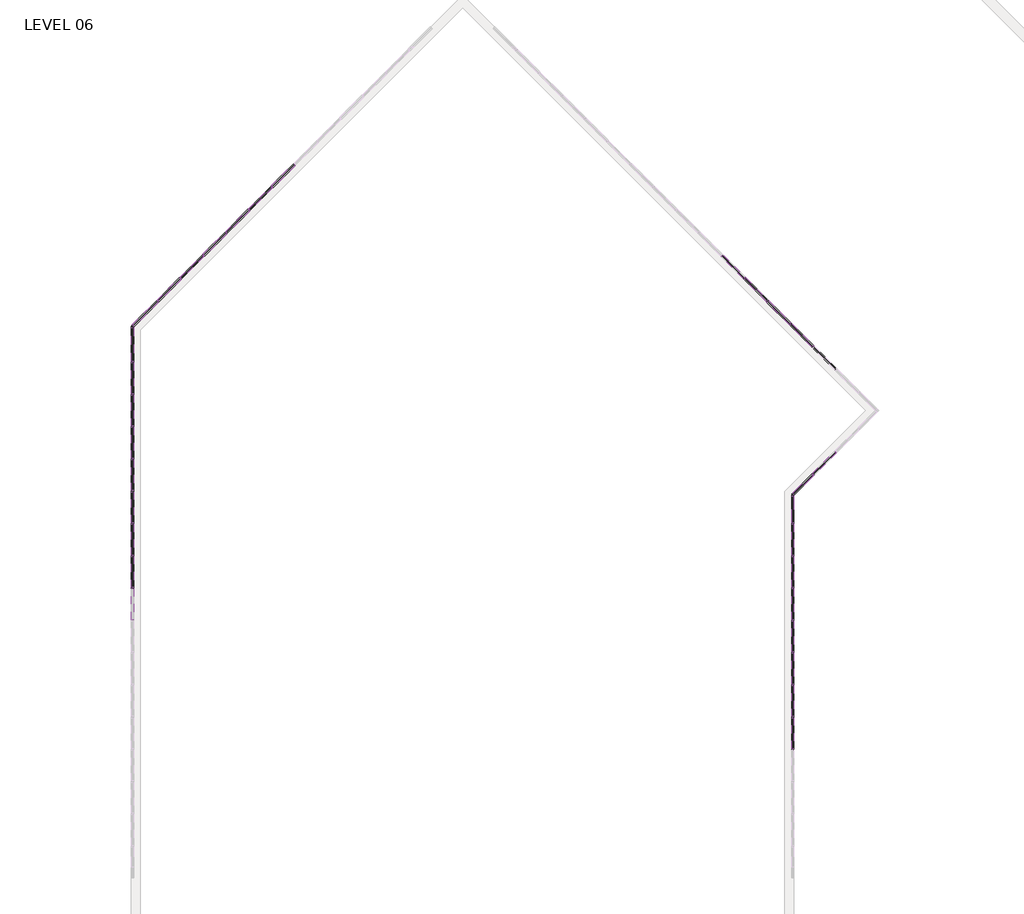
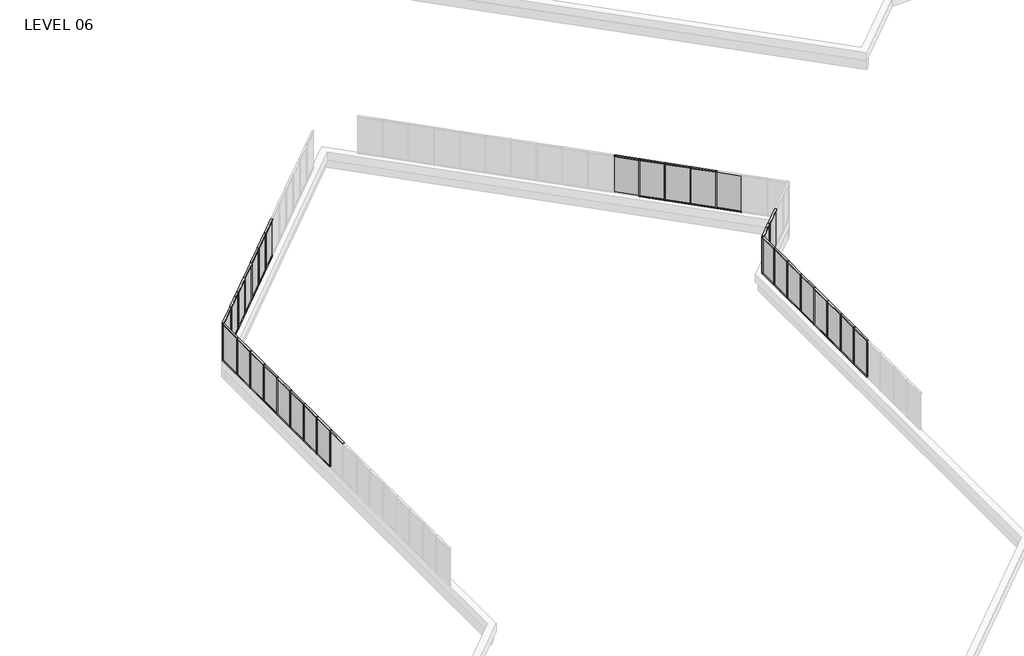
# One storey, part 5 of 17: 89 members, 30 plates.
"""IFC4 building model written with IfcOpenShell, lengths in millimetres."""

from ifc_helpers import new_model, si_unit, origin, place, context, project, spatial, transform, mapped, element, save
from components import member_5247f267, member_e44af9ab, member_800970d4, member_45eb7f2e, member_1bd862b2, member_c975838b, plate_67294edd, plate_bbcbcabf, plate_9c66726c, plate_3fb62afd, plate_129ab9d0

model = new_model("IFC4")

# Units and contexts
model_context = context("Model", 3, world=origin())
ifc_project = project(units=[si_unit("LENGTHUNIT", "METRE", prefix="MILLI")], contexts=[model_context])

# Site, building, storey
site = spatial("IfcSite", under=ifc_project)
building = spatial("IfcBuilding", under=site)
storey = spatial("IfcBuildingStorey", under=building, Name="LEVEL 06", Elevation=19596.1)

# Members
placement = place(None, origin())
member_shape = member_5247f267(model_context)
element("IfcMember", 1, ObjectType="Rectangular Mullion : 2\" x 4.5\" rectangular", at=placement, inside=storey, context=model_context, shape_type="MappedRepresentation", body=[
    mapped(member_shape, transform((-32784.0347164, 64350.5675885, 22186.9), x_axis=(0.0, 0.0, 1.0), y_axis=(1.0, 0.0, 0.0), z_axis=(0.0, 1.0, 0.0))),
])
element("IfcMember", 2, ObjectType="Rectangular Mullion : 2\" x 4.5\" rectangular", at=placement, inside=storey, context=model_context, shape_type="MappedRepresentation", body=[
    mapped(member_shape, transform((-32784.0347164, 67398.5675885, 22186.9), x_axis=(0.0, 0.0, 1.0), y_axis=(1.0, 0.0, 0.0), z_axis=(0.0, 1.0, 0.0))),
])
element("IfcMember", 3, ObjectType="Rectangular Mullion : 2\" x 4.5\" rectangular", at=placement, inside=storey, context=model_context, shape_type="MappedRepresentation", body=[
    mapped(member_shape, transform((-32784.0347164, 71970.5675885, 22186.9), x_axis=(0.0, 0.0, 1.0), y_axis=(1.0, 0.0, 0.0), z_axis=(0.0, 1.0, 0.0))),
])
element("IfcMember", 4, ObjectType="Rectangular Mullion : 2\" x 4.5\" rectangular", at=placement, inside=storey, context=model_context, shape_type="MappedRepresentation", body=[
    mapped(member_shape, transform((-32784.0347164, 73494.5675885, 22186.9), x_axis=(0.0, 0.0, 1.0), y_axis=(1.0, 0.0, 0.0), z_axis=(0.0, 1.0, 0.0))),
])
element("IfcMember", 5, ObjectType="Rectangular Mullion : 2\" x 4.5\" rectangular", at=placement, inside=storey, context=model_context, shape_type="MappedRepresentation", body=[
    mapped(member_shape, transform((-32784.0347164, 65874.5675885, 22186.9), x_axis=(0.0, 0.0, 1.0), y_axis=(1.0, 0.0, 0.0), z_axis=(0.0, 1.0, 0.0))),
])
element("IfcMember", 6, ObjectType="Rectangular Mullion : 2\" x 4.5\" rectangular", at=placement, inside=storey, context=model_context, shape_type="MappedRepresentation", body=[
    mapped(member_shape, transform((-32784.0347164, 68922.5675885, 22186.9), x_axis=(0.0, 0.0, 1.0), y_axis=(1.0, 0.0, 0.0), z_axis=(0.0, 1.0, 0.0))),
])
element("IfcMember", 7, ObjectType="Rectangular Mullion : 2\" x 4.5\" rectangular", at=placement, inside=storey, context=model_context, shape_type="MappedRepresentation", body=[
    mapped(member_shape, transform((-32784.0347164, 70446.5675885, 22186.9), x_axis=(0.0, 0.0, 1.0), y_axis=(1.0, 0.0, 0.0), z_axis=(0.0, 1.0, 0.0))),
])
element("IfcMember", 8, ObjectType="Rectangular Mullion : 2\" x 4.5\" rectangular", at=placement, inside=storey, context=model_context, shape_type="MappedRepresentation", body=[
    mapped(member_shape, transform((-32784.0347164, 75018.5675885, 22186.9), x_axis=(0.0, 0.0, 1.0), y_axis=(1.0, 0.0, 0.0), z_axis=(0.0, 1.0, 0.0))),
])
element("IfcMember", 9, ObjectType="Rectangular Mullion : 2\" x 4.5\" rectangular", at=placement, inside=storey, context=model_context, shape_type="MappedRepresentation", body=[
    mapped(member_shape, transform((-30529.7405, 78987.9679405, 22186.9), x_axis=(0.0, 0.0, 1.0), y_axis=(0.7071067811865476, -0.7071067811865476, 0.0), z_axis=(0.7071067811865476, 0.7071067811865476, 0.0))),
])
element("IfcMember", 10, ObjectType="Rectangular Mullion : 2\" x 4.5\" rectangular", at=placement, inside=storey, context=model_context, shape_type="MappedRepresentation", body=[
    mapped(member_shape, transform((-29452.1097655, 80065.598675, 22186.9), x_axis=(0.0, 0.0, 1.0), y_axis=(0.7071067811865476, -0.7071067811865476, 0.0), z_axis=(0.7071067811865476, 0.7071067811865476, 0.0))),
])
element("IfcMember", 11, ObjectType="Rectangular Mullion : 2\" x 4.5\" rectangular", at=placement, inside=storey, context=model_context, shape_type="MappedRepresentation", body=[
    mapped(member_shape, transform((-28374.479031, 81143.2294096, 22186.9), x_axis=(0.0, 0.0, 1.0), y_axis=(0.7071067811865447, -0.7071067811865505, 0.0), z_axis=(0.7071067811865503, 0.7071067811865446, 0.0))),
])
element("IfcMember", 12, ObjectType="Rectangular Mullion : 2\" x 4.5\" rectangular", at=placement, inside=storey, context=model_context, shape_type="MappedRepresentation", body=[
    mapped(member_shape, transform((-26219.2175619, 83298.4908786, 22186.9), x_axis=(0.0, 0.0, 1.0), y_axis=(0.707106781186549, -0.7071067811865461, 0.0), z_axis=(0.7071067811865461, 0.707106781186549, 0.0))),
])
element("IfcMember", 13, ObjectType="Rectangular Mullion : 2\" x 4.5\" rectangular", at=placement, inside=storey, context=model_context, shape_type="MappedRepresentation", body=[
    mapped(member_shape, transform((-25141.5868274, 84376.1216131, 22186.9), x_axis=(0.0, 0.0, 1.0), y_axis=(0.7071067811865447, -0.7071067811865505, 0.0), z_axis=(0.7071067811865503, 0.7071067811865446, 0.0))),
])
element("IfcMember", 14, ObjectType="Rectangular Mullion : 2\" x 4.5\" rectangular", at=placement, inside=storey, context=model_context, shape_type="MappedRepresentation", body=[
    mapped(member_shape, transform((-27296.8482965, 82220.8601441, 22186.9), x_axis=(0.0, 0.0, 1.0), y_axis=(0.7071067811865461, -0.707106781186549, 0.0), z_axis=(0.707106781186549, 0.7071067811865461, 0.0))),
])
element("IfcMember", 15, ObjectType="Rectangular Mullion : 2\" x 4.5\" rectangular", at=placement, inside=storey, context=model_context, shape_type="MappedRepresentation", body=[
    mapped(member_shape, transform((-3902.2786299, 79024.0676376, 22186.9), x_axis=(0.0, 0.0, 1.0), y_axis=(-0.7071067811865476, -0.7071067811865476, 0.0), z_axis=(0.7071067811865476, -0.7071067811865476, 0.0))),
])
element("IfcMember", 16, ObjectType="Rectangular Mullion : 2\" x 4.5\" rectangular", at=placement, inside=storey, context=model_context, shape_type="MappedRepresentation", body=[
    mapped(member_shape, transform((-2824.6478954, 77946.4369031, 22186.9), x_axis=(0.0, 0.0, 1.0), y_axis=(-0.7071067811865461, -0.707106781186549, 0.0), z_axis=(0.707106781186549, -0.7071067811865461, 0.0))),
])
element("IfcMember", 17, ObjectType="Rectangular Mullion : 2\" x 4.5\" rectangular", at=placement, inside=storey, context=model_context, shape_type="MappedRepresentation", body=[
    mapped(member_shape, transform((-1747.0171608, 76868.8061686, 22186.9), x_axis=(0.0, 0.0, 1.0), y_axis=(-0.7071067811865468, -0.7071067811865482, 0.0), z_axis=(0.7071067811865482, -0.7071067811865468, 0.0))),
])
element("IfcMember", 18, ObjectType="Rectangular Mullion : 2\" x 4.5\" rectangular", at=placement, inside=storey, context=model_context, shape_type="MappedRepresentation", body=[
    mapped(member_shape, transform((-669.3864263, 75791.175434, 22186.9), x_axis=(0.0, 0.0, 1.0), y_axis=(-0.7071067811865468, -0.7071067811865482, 0.0), z_axis=(0.7071067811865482, -0.7071067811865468, 0.0))),
])
element("IfcMember", 19, ObjectType="Rectangular Mullion : 2\" x 4.5\" rectangular", at=placement, inside=storey, context=model_context, shape_type="MappedRepresentation", body=[
    mapped(member_shape, transform((-633.4615109, 69760.6846584, 22186.9), x_axis=(0.0, 0.0, 1.0), y_axis=(-0.7071067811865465, 0.7071067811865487, 0.0), z_axis=(-0.7071067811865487, -0.7071067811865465, 0.0))),
])
element("IfcMember", 20, ObjectType="Rectangular Mullion : 2\" x 4.5\" rectangular", at=placement, inside=storey, context=model_context, shape_type="MappedRepresentation", body=[
    mapped(member_shape, transform((-1611.8847164, 58254.5675885, 22186.9), x_axis=(0.0, 0.0, 1.0), y_axis=(1.0, 0.0, 0.0), z_axis=(0.0, 1.0, 0.0))),
])
element("IfcMember", 21, ObjectType="Rectangular Mullion : 2\" x 4.5\" rectangular", at=placement, inside=storey, context=model_context, shape_type="MappedRepresentation", body=[
    mapped(member_shape, transform((-1611.8847164, 59778.5675885, 22186.9), x_axis=(0.0, 0.0, 1.0), y_axis=(1.0, 0.0, 0.0), z_axis=(0.0, 1.0, 0.0))),
])
element("IfcMember", 22, ObjectType="Rectangular Mullion : 2\" x 4.5\" rectangular", at=placement, inside=storey, context=model_context, shape_type="MappedRepresentation", body=[
    mapped(member_shape, transform((-1611.8847164, 62826.5675885, 22186.9), x_axis=(0.0, 0.0, 1.0), y_axis=(1.0, 0.0, 0.0), z_axis=(0.0, 1.0, 0.0))),
])
element("IfcMember", 23, ObjectType="Rectangular Mullion : 2\" x 4.5\" rectangular", at=placement, inside=storey, context=model_context, shape_type="MappedRepresentation", body=[
    mapped(member_shape, transform((-1611.8847164, 64350.5675885, 22186.9), x_axis=(0.0, 0.0, 1.0), y_axis=(1.0, 0.0, 0.0), z_axis=(0.0, 1.0, 0.0))),
])
element("IfcMember", 24, ObjectType="Rectangular Mullion : 2\" x 4.5\" rectangular", at=placement, inside=storey, context=model_context, shape_type="MappedRepresentation", body=[
    mapped(member_shape, transform((-1611.8847164, 65874.5675885, 22186.9), x_axis=(0.0, 0.0, 1.0), y_axis=(1.0, 0.0, 0.0), z_axis=(0.0, 1.0, 0.0))),
])
element("IfcMember", 25, ObjectType="Rectangular Mullion : 2\" x 4.5\" rectangular", at=placement, inside=storey, context=model_context, shape_type="MappedRepresentation", body=[
    mapped(member_shape, transform((-1611.8847164, 67398.5675885, 22186.9), x_axis=(0.0, 0.0, 1.0), y_axis=(1.0, 0.0, 0.0), z_axis=(0.0, 1.0, 0.0))),
])
element("IfcMember", 26, ObjectType="Rectangular Mullion : 2\" x 4.5\" rectangular", at=placement, inside=storey, context=model_context, shape_type="MappedRepresentation", body=[
    mapped(member_shape, transform((-1611.8847164, 61302.5675885, 22186.9), x_axis=(0.0, 0.0, 1.0), y_axis=(1.0, 0.0, 0.0), z_axis=(0.0, 1.0, 0.0))),
])
element("IfcMember", 27, ObjectType="Rectangular Mullion : 2\" x 4.5\" rectangular", at=placement, inside=storey, context=model_context, shape_type="MappedRepresentation", body=[
    mapped(member_shape, transform((-32784.0347164, 64401.3675885, 19596.1), x_axis=(0.0, 0.0, -1.0), y_axis=(1.0, 0.0, 0.0), z_axis=(0.0, -1.0, 0.0))),
])
element("IfcMember", 28, ObjectType="Rectangular Mullion : 2\" x 4.5\" rectangular", at=placement, inside=storey, context=model_context, shape_type="MappedRepresentation", body=[
    mapped(member_shape, transform((-32784.0347164, 67449.3675885, 19596.1), x_axis=(0.0, 0.0, -1.0), y_axis=(1.0, 0.0, 0.0), z_axis=(0.0, -1.0, 0.0))),
])
element("IfcMember", 29, ObjectType="Rectangular Mullion : 2\" x 4.5\" rectangular", at=placement, inside=storey, context=model_context, shape_type="MappedRepresentation", body=[
    mapped(member_shape, transform((-32784.0347164, 72021.3675885, 19596.1), x_axis=(0.0, 0.0, -1.0), y_axis=(1.0, 0.0, 0.0), z_axis=(0.0, -1.0, 0.0))),
])
element("IfcMember", 30, ObjectType="Rectangular Mullion : 2\" x 4.5\" rectangular", at=placement, inside=storey, context=model_context, shape_type="MappedRepresentation", body=[
    mapped(member_shape, transform((-32784.0347164, 73545.3675885, 19596.1), x_axis=(0.0, 0.0, -1.0), y_axis=(1.0, 0.0, 0.0), z_axis=(0.0, -1.0, 0.0))),
])
element("IfcMember", 31, ObjectType="Rectangular Mullion : 2\" x 4.5\" rectangular", at=placement, inside=storey, context=model_context, shape_type="MappedRepresentation", body=[
    mapped(member_shape, transform((-32784.0347164, 65925.3675885, 19596.1), x_axis=(0.0, 0.0, -1.0), y_axis=(1.0, 0.0, 0.0), z_axis=(0.0, -1.0, 0.0))),
])
element("IfcMember", 32, ObjectType="Rectangular Mullion : 2\" x 4.5\" rectangular", at=placement, inside=storey, context=model_context, shape_type="MappedRepresentation", body=[
    mapped(member_shape, transform((-32784.0347164, 68973.3675885, 19596.1), x_axis=(0.0, 0.0, -1.0), y_axis=(1.0, 0.0, 0.0), z_axis=(0.0, -1.0, 0.0))),
])
element("IfcMember", 33, ObjectType="Rectangular Mullion : 2\" x 4.5\" rectangular", at=placement, inside=storey, context=model_context, shape_type="MappedRepresentation", body=[
    mapped(member_shape, transform((-32784.0347164, 70497.3675885, 19596.1), x_axis=(0.0, 0.0, -1.0), y_axis=(1.0, 0.0, 0.0), z_axis=(0.0, -1.0, 0.0))),
])
element("IfcMember", 34, ObjectType="Rectangular Mullion : 2\" x 4.5\" rectangular", at=placement, inside=storey, context=model_context, shape_type="MappedRepresentation", body=[
    mapped(member_shape, transform((-31571.4502101, 77946.2582305, 19596.1), x_axis=(0.0, 0.0, -1.0), y_axis=(0.7071067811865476, -0.7071067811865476, 0.0), z_axis=(-0.7071067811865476, -0.7071067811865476, 0.0))),
])
element("IfcMember", 35, ObjectType="Rectangular Mullion : 2\" x 4.5\" rectangular", at=placement, inside=storey, context=model_context, shape_type="MappedRepresentation", body=[
    mapped(member_shape, transform((-30493.8194756, 79023.888965, 19596.1), x_axis=(0.0, 0.0, -1.0), y_axis=(0.7071067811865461, -0.707106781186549, 0.0), z_axis=(-0.707106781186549, -0.7071067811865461, 0.0))),
])
element("IfcMember", 36, ObjectType="Rectangular Mullion : 2\" x 4.5\" rectangular", at=placement, inside=storey, context=model_context, shape_type="MappedRepresentation", body=[
    mapped(member_shape, transform((-29416.188741, 80101.5196995, 19596.1), x_axis=(0.0, 0.0, -1.0), y_axis=(0.7071067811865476, -0.7071067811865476, 0.0), z_axis=(-0.7071067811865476, -0.7071067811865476, 0.0))),
])
element("IfcMember", 37, ObjectType="Rectangular Mullion : 2\" x 4.5\" rectangular", at=placement, inside=storey, context=model_context, shape_type="MappedRepresentation", body=[
    mapped(member_shape, transform((-28338.5580065, 81179.150434, 19596.1), x_axis=(0.0, 0.0, -1.0), y_axis=(0.7071067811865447, -0.7071067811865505, 0.0), z_axis=(-0.7071067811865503, -0.7071067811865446, 0.0))),
])
element("IfcMember", 38, ObjectType="Rectangular Mullion : 2\" x 4.5\" rectangular", at=placement, inside=storey, context=model_context, shape_type="MappedRepresentation", body=[
    mapped(member_shape, transform((-26183.2965374, 83334.4119031, 19596.1), x_axis=(0.0, 0.0, -1.0), y_axis=(0.7071067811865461, -0.707106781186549, 0.0), z_axis=(-0.707106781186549, -0.7071067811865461, 0.0))),
])
element("IfcMember", 39, ObjectType="Rectangular Mullion : 2\" x 4.5\" rectangular", at=placement, inside=storey, context=model_context, shape_type="MappedRepresentation", body=[
    mapped(member_shape, transform((-27260.927272, 82256.7811686, 19596.1), x_axis=(0.0, 0.0, -1.0), y_axis=(0.7071067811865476, -0.7071067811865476, 0.0), z_axis=(-0.7071067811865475, -0.7071067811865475, 0.0))),
])
element("IfcMember", 40, ObjectType="Rectangular Mullion : 2\" x 4.5\" rectangular", at=placement, inside=storey, context=model_context, shape_type="MappedRepresentation", body=[
    mapped(member_shape, transform((-3866.3576054, 78988.1466131, 19596.1), x_axis=(0.0, 0.0, -1.0), y_axis=(-0.7071067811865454, -0.7071067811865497, 0.0), z_axis=(-0.7071067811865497, 0.7071067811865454, 0.0))),
])
element("IfcMember", 41, ObjectType="Rectangular Mullion : 2\" x 4.5\" rectangular", at=placement, inside=storey, context=model_context, shape_type="MappedRepresentation", body=[
    mapped(member_shape, transform((-2788.7268709, 77910.5158786, 19596.1), x_axis=(0.0, 0.0, -1.0), y_axis=(-0.7071067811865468, -0.7071067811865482, 0.0), z_axis=(-0.7071067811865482, 0.7071067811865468, 0.0))),
])
element("IfcMember", 42, ObjectType="Rectangular Mullion : 2\" x 4.5\" rectangular", at=placement, inside=storey, context=model_context, shape_type="MappedRepresentation", body=[
    mapped(member_shape, transform((-1711.0961363, 76832.8851441, 19596.1), x_axis=(0.0, 0.0, -1.0), y_axis=(-0.7071067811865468, -0.7071067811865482, 0.0), z_axis=(-0.7071067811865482, 0.7071067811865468, 0.0))),
])
element("IfcMember", 43, ObjectType="Rectangular Mullion : 2\" x 4.5\" rectangular", at=placement, inside=storey, context=model_context, shape_type="MappedRepresentation", body=[
    mapped(member_shape, transform((-633.4654018, 75755.2544096, 19596.1), x_axis=(0.0, 0.0, -1.0), y_axis=(-0.7071067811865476, -0.7071067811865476, 0.0), z_axis=(-0.7071067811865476, 0.7071067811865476, 0.0))),
])
element("IfcMember", 44, ObjectType="Rectangular Mullion : 2\" x 4.5\" rectangular", at=placement, inside=storey, context=model_context, shape_type="MappedRepresentation", body=[
    mapped(member_shape, transform((-1611.8847164, 56781.3675885, 19596.1), x_axis=(0.0, 0.0, -1.0), y_axis=(1.0, 0.0, 0.0), z_axis=(0.0, -1.0, 0.0))),
])
element("IfcMember", 45, ObjectType="Rectangular Mullion : 2\" x 4.5\" rectangular", at=placement, inside=storey, context=model_context, shape_type="MappedRepresentation", body=[
    mapped(member_shape, transform((-1611.8847164, 58305.3675885, 19596.1), x_axis=(0.0, 0.0, -1.0), y_axis=(1.0, 0.0, 0.0), z_axis=(0.0, -1.0, 0.0))),
])
element("IfcMember", 46, ObjectType="Rectangular Mullion : 2\" x 4.5\" rectangular", at=placement, inside=storey, context=model_context, shape_type="MappedRepresentation", body=[
    mapped(member_shape, transform((-1611.8847164, 59829.3675885, 19596.1), x_axis=(0.0, 0.0, -1.0), y_axis=(1.0, 0.0, 0.0), z_axis=(0.0, -1.0, 0.0))),
])
element("IfcMember", 47, ObjectType="Rectangular Mullion : 2\" x 4.5\" rectangular", at=placement, inside=storey, context=model_context, shape_type="MappedRepresentation", body=[
    mapped(member_shape, transform((-1611.8847164, 62877.3675885, 19596.1), x_axis=(0.0, 0.0, -1.0), y_axis=(1.0, 0.0, 0.0), z_axis=(0.0, -1.0, 0.0))),
])
element("IfcMember", 48, ObjectType="Rectangular Mullion : 2\" x 4.5\" rectangular", at=placement, inside=storey, context=model_context, shape_type="MappedRepresentation", body=[
    mapped(member_shape, transform((-1611.8847164, 64401.3675885, 19596.1), x_axis=(0.0, 0.0, -1.0), y_axis=(1.0, 0.0, 0.0), z_axis=(0.0, -1.0, 0.0))),
])
element("IfcMember", 49, ObjectType="Rectangular Mullion : 2\" x 4.5\" rectangular", at=placement, inside=storey, context=model_context, shape_type="MappedRepresentation", body=[
    mapped(member_shape, transform((-1611.8847164, 65925.3675885, 19596.1), x_axis=(0.0, 0.0, -1.0), y_axis=(1.0, 0.0, 0.0), z_axis=(0.0, -1.0, 0.0))),
])
element("IfcMember", 50, ObjectType="Rectangular Mullion : 2\" x 4.5\" rectangular", at=placement, inside=storey, context=model_context, shape_type="MappedRepresentation", body=[
    mapped(member_shape, transform((-1611.8847164, 61353.3675885, 19596.1), x_axis=(0.0, 0.0, -1.0), y_axis=(1.0, 0.0, 0.0), z_axis=(0.0, -1.0, 0.0))),
])
member_2_shape = member_e44af9ab(model_context)
element("IfcMember", 51, ObjectType="Rectangular Mullion : 2\" x 4.5\" rectangular", at=placement, inside=storey, context=model_context, shape_type="MappedRepresentation", body=[
    mapped(member_2_shape, transform((-32784.0347164, 64375.9675885, 19596.1), x_axis=(0.0, 1.0, 0.0), y_axis=(1.0, 0.0, 0.0), z_axis=(0.0, 0.0, -1.0))),
])
element("IfcMember", 52, ObjectType="Rectangular Mullion : 2\" x 4.5\" rectangular", at=placement, inside=storey, context=model_context, shape_type="MappedRepresentation", body=[
    mapped(member_2_shape, transform((-32784.0347164, 67423.9675885, 19596.1), x_axis=(0.0, 1.0, 0.0), y_axis=(1.0, 0.0, 0.0), z_axis=(0.0, 0.0, -1.0))),
])
element("IfcMember", 53, ObjectType="Rectangular Mullion : 2\" x 4.5\" rectangular", at=placement, inside=storey, context=model_context, shape_type="MappedRepresentation", body=[
    mapped(member_2_shape, transform((-32784.0347164, 71995.9675885, 19596.1), x_axis=(0.0, 1.0, 0.0), y_axis=(1.0, 0.0, 0.0), z_axis=(0.0, 0.0, -1.0))),
])
element("IfcMember", 54, ObjectType="Rectangular Mullion : 2\" x 4.5\" rectangular", at=placement, inside=storey, context=model_context, shape_type="MappedRepresentation", body=[
    mapped(member_2_shape, transform((-32784.0347164, 73519.9675885, 19596.1), x_axis=(0.0, 1.0, 0.0), y_axis=(1.0, 0.0, 0.0), z_axis=(0.0, 0.0, -1.0))),
])
element("IfcMember", 55, ObjectType="Rectangular Mullion : 2\" x 4.5\" rectangular", at=placement, inside=storey, context=model_context, shape_type="MappedRepresentation", body=[
    mapped(member_2_shape, transform((-32784.0347164, 65899.9675885, 19596.1), x_axis=(0.0, 1.0, 0.0), y_axis=(1.0, 0.0, 0.0), z_axis=(0.0, 0.0, -1.0))),
])
element("IfcMember", 56, ObjectType="Rectangular Mullion : 2\" x 4.5\" rectangular", at=placement, inside=storey, context=model_context, shape_type="MappedRepresentation", body=[
    mapped(member_2_shape, transform((-32784.0347164, 68947.9675885, 19596.1), x_axis=(0.0, 1.0, 0.0), y_axis=(1.0, 0.0, 0.0), z_axis=(0.0, 0.0, -1.0))),
])
element("IfcMember", 57, ObjectType="Rectangular Mullion : 2\" x 4.5\" rectangular", at=placement, inside=storey, context=model_context, shape_type="MappedRepresentation", body=[
    mapped(member_2_shape, transform((-32784.0347164, 70471.9675885, 19596.1), x_axis=(0.0, 1.0, 0.0), y_axis=(1.0, 0.0, 0.0), z_axis=(0.0, 0.0, -1.0))),
])
element("IfcMember", 58, ObjectType="Rectangular Mullion : 2\" x 4.5\" rectangular", at=placement, inside=storey, context=model_context, shape_type="MappedRepresentation", body=[
    mapped(member_2_shape, transform((-32784.0347164, 75043.9675885, 19596.1), x_axis=(0.0, 1.0, 0.0), y_axis=(1.0, 0.0, 0.0), z_axis=(0.0, 0.0, -1.0))),
])
element("IfcMember", 59, ObjectType="Rectangular Mullion : 2\" x 4.5\" rectangular", at=placement, inside=storey, context=model_context, shape_type="MappedRepresentation", body=[
    mapped(member_2_shape, transform((-31589.4107223, 77928.2977182, 19596.1), x_axis=(0.7071067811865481, 0.7071067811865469, 0.0), y_axis=(0.7071067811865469, -0.7071067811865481, 0.0), z_axis=(0.0, 0.0, -1.0))),
])
element("IfcMember", 60, ObjectType="Rectangular Mullion : 2\" x 4.5\" rectangular", at=placement, inside=storey, context=model_context, shape_type="MappedRepresentation", body=[
    mapped(member_2_shape, transform((-30511.7799878, 79005.9284527, 19596.1), x_axis=(0.7071067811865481, 0.7071067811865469, 0.0), y_axis=(0.7071067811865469, -0.7071067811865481, 0.0), z_axis=(0.0, 0.0, -1.0))),
])
element("IfcMember", 61, ObjectType="Rectangular Mullion : 2\" x 4.5\" rectangular", at=placement, inside=storey, context=model_context, shape_type="MappedRepresentation", body=[
    mapped(member_2_shape, transform((-29434.1492533, 80083.5591873, 19596.1), x_axis=(0.7071067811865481, 0.7071067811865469, 0.0), y_axis=(0.7071067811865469, -0.7071067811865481, 0.0), z_axis=(0.0, 0.0, -1.0))),
])
element("IfcMember", 62, ObjectType="Rectangular Mullion : 2\" x 4.5\" rectangular", at=placement, inside=storey, context=model_context, shape_type="MappedRepresentation", body=[
    mapped(member_2_shape, transform((-28356.5185187, 81161.1899218, 19596.1), x_axis=(0.7071067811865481, 0.7071067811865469, 0.0), y_axis=(0.7071067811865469, -0.7071067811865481, 0.0), z_axis=(0.0, 0.0, -1.0))),
])
element("IfcMember", 63, ObjectType="Rectangular Mullion : 2\" x 4.5\" rectangular", at=placement, inside=storey, context=model_context, shape_type="MappedRepresentation", body=[
    mapped(member_2_shape, transform((-26201.2570497, 83316.4513909, 19596.1), x_axis=(0.7071067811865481, 0.7071067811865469, 0.0), y_axis=(0.7071067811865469, -0.7071067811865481, 0.0), z_axis=(0.0, 0.0, -1.0))),
])
element("IfcMember", 64, ObjectType="Rectangular Mullion : 2\" x 4.5\" rectangular", at=placement, inside=storey, context=model_context, shape_type="MappedRepresentation", body=[
    mapped(member_2_shape, transform((-27278.8877842, 82238.8206563, 19596.1), x_axis=(0.7071067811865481, 0.7071067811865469, 0.0), y_axis=(0.7071067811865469, -0.7071067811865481, 0.0), z_axis=(0.0, 0.0, -1.0))),
])
element("IfcMember", 65, ObjectType="Rectangular Mullion : 2\" x 4.5\" rectangular", at=placement, inside=storey, context=model_context, shape_type="MappedRepresentation", body=[
    mapped(member_2_shape, transform((-3884.3181176, 79006.1071254, 19596.1), x_axis=(0.707106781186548, -0.7071067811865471, 0.0), y_axis=(-0.7071067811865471, -0.707106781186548, 0.0), z_axis=(0.0, 0.0, -1.0))),
])
element("IfcMember", 66, ObjectType="Rectangular Mullion : 2\" x 4.5\" rectangular", at=placement, inside=storey, context=model_context, shape_type="MappedRepresentation", body=[
    mapped(member_2_shape, transform((-2806.6873831, 77928.4763909, 19596.1), x_axis=(0.707106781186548, -0.7071067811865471, 0.0), y_axis=(-0.7071067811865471, -0.707106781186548, 0.0), z_axis=(0.0, 0.0, -1.0))),
])
element("IfcMember", 67, ObjectType="Rectangular Mullion : 2\" x 4.5\" rectangular", at=placement, inside=storey, context=model_context, shape_type="MappedRepresentation", body=[
    mapped(member_2_shape, transform((-1729.0566486, 76850.8456563, 19596.1), x_axis=(0.707106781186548, -0.7071067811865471, 0.0), y_axis=(-0.7071067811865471, -0.707106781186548, 0.0), z_axis=(0.0, 0.0, -1.0))),
])
element("IfcMember", 68, ObjectType="Rectangular Mullion : 2\" x 4.5\" rectangular", at=placement, inside=storey, context=model_context, shape_type="MappedRepresentation", body=[
    mapped(member_2_shape, transform((-651.4259141, 75773.2149218, 19596.1), x_axis=(0.707106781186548, -0.7071067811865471, 0.0), y_axis=(-0.7071067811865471, -0.707106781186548, 0.0), z_axis=(0.0, 0.0, -1.0))),
])
element("IfcMember", 69, ObjectType="Rectangular Mullion : 2\" x 4.5\" rectangular", at=placement, inside=storey, context=model_context, shape_type="MappedRepresentation", body=[
    mapped(member_2_shape, transform((-651.4220231, 69742.7241462, 19596.1), x_axis=(-0.707106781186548, -0.7071067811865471, 0.0), y_axis=(-0.7071067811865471, 0.707106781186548, 0.0), z_axis=(0.0, 0.0, -1.0))),
])
element("IfcMember", 70, ObjectType="Rectangular Mullion : 2\" x 4.5\" rectangular", at=placement, inside=storey, context=model_context, shape_type="MappedRepresentation", body=[
    mapped(member_2_shape, transform((-1611.8847164, 56755.9675885, 19596.1), x_axis=(0.0, 1.0, 0.0), y_axis=(1.0, 0.0, 0.0), z_axis=(0.0, 0.0, -1.0))),
])
element("IfcMember", 71, ObjectType="Rectangular Mullion : 2\" x 4.5\" rectangular", at=placement, inside=storey, context=model_context, shape_type="MappedRepresentation", body=[
    mapped(member_2_shape, transform((-1611.8847164, 58279.9675885, 19596.1), x_axis=(0.0, 1.0, 0.0), y_axis=(1.0, 0.0, 0.0), z_axis=(0.0, 0.0, -1.0))),
])
element("IfcMember", 72, ObjectType="Rectangular Mullion : 2\" x 4.5\" rectangular", at=placement, inside=storey, context=model_context, shape_type="MappedRepresentation", body=[
    mapped(member_2_shape, transform((-1611.8847164, 59803.9675885, 19596.1), x_axis=(0.0, 1.0, 0.0), y_axis=(1.0, 0.0, 0.0), z_axis=(0.0, 0.0, -1.0))),
])
element("IfcMember", 73, ObjectType="Rectangular Mullion : 2\" x 4.5\" rectangular", at=placement, inside=storey, context=model_context, shape_type="MappedRepresentation", body=[
    mapped(member_2_shape, transform((-1611.8847164, 62851.9675885, 19596.1), x_axis=(0.0, 1.0, 0.0), y_axis=(1.0, 0.0, 0.0), z_axis=(0.0, 0.0, -1.0))),
])
element("IfcMember", 74, ObjectType="Rectangular Mullion : 2\" x 4.5\" rectangular", at=placement, inside=storey, context=model_context, shape_type="MappedRepresentation", body=[
    mapped(member_2_shape, transform((-1611.8847164, 64375.9675885, 19596.1), x_axis=(0.0, 1.0, 0.0), y_axis=(1.0, 0.0, 0.0), z_axis=(0.0, 0.0, -1.0))),
])
element("IfcMember", 75, ObjectType="Rectangular Mullion : 2\" x 4.5\" rectangular", at=placement, inside=storey, context=model_context, shape_type="MappedRepresentation", body=[
    mapped(member_2_shape, transform((-1611.8847164, 65899.9675885, 19596.1), x_axis=(0.0, 1.0, 0.0), y_axis=(1.0, 0.0, 0.0), z_axis=(0.0, 0.0, -1.0))),
])
element("IfcMember", 76, ObjectType="Rectangular Mullion : 2\" x 4.5\" rectangular", at=placement, inside=storey, context=model_context, shape_type="MappedRepresentation", body=[
    mapped(member_2_shape, transform((-1611.8847164, 67423.9675885, 19596.1), x_axis=(0.0, 1.0, 0.0), y_axis=(1.0, 0.0, 0.0), z_axis=(0.0, 0.0, -1.0))),
])
element("IfcMember", 77, ObjectType="Rectangular Mullion : 2\" x 4.5\" rectangular", at=placement, inside=storey, context=model_context, shape_type="MappedRepresentation", body=[
    mapped(member_2_shape, transform((-1611.8847164, 61327.9675885, 19596.1), x_axis=(0.0, 1.0, 0.0), y_axis=(1.0, 0.0, 0.0), z_axis=(0.0, 0.0, -1.0))),
])
member_3_shape = member_800970d4(model_context)
element("IfcMember", 78, ObjectType="Rectangular Mullion : 2\" x 4.5\" rectangular", at=placement, inside=storey, context=model_context, shape_type="MappedRepresentation", body=[
    mapped(member_3_shape, transform((-32784.0347164, 76733.6737241, 19596.1), x_axis=(0.0, 1.0, 0.0), y_axis=(1.0, 0.0, 0.0), z_axis=(0.0, 0.0, -1.0))),
])
element("IfcMember", 79, ObjectType="Rectangular Mullion : 2\" x 4.5\" rectangular", at=placement, inside=storey, context=model_context, shape_type="MappedRepresentation", body=[
    mapped(member_3_shape, transform((-1611.8847164, 68782.2614529, 19596.1), x_axis=(-0.707106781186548, -0.7071067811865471, 0.0), y_axis=(-0.7071067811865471, 0.707106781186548, 0.0), z_axis=(0.0, 0.0, -1.0))),
])
element("IfcMember", 80, ObjectType="Rectangular Mullion : 2\" x 4.5\" rectangular", at=placement, inside=storey, context=model_context, shape_type="MappedRepresentation", body=[
    mapped(member_3_shape, transform((-1611.8847164, 68782.2614529, 19596.1), x_axis=(0.0, 1.0, 0.0), y_axis=(1.0, 0.0, 0.0), z_axis=(0.0, 0.0, -1.0))),
])
element("IfcMember", 81, ObjectType="Rectangular Mullion : 2\" x 4.5\" rectangular", at=placement, inside=storey, context=model_context, shape_type="MappedRepresentation", body=[
    mapped(member_3_shape, transform((-32784.0347164, 76733.6737241, 22186.9), x_axis=(-0.7071067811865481, -0.7071067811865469, 0.0), y_axis=(0.7071067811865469, -0.7071067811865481, 0.0), z_axis=(0.0, 0.0, 1.0))),
])
member_4_shape = member_45eb7f2e(model_context)
element("IfcMember", 82, ObjectType="Rectangular Mullion : 2\" x 4.5\" rectangular", at=placement, inside=storey, context=model_context, shape_type="MappedRepresentation", body=[
    mapped(member_4_shape, transform((-1575.9636919, 68818.1824774, 22186.9), x_axis=(0.0, 0.0, 1.0), y_axis=(-0.7071067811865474, 0.7071067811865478, 0.0), z_axis=(-0.7071067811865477, -0.7071067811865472, 0.0))),
])
element("IfcMember", 83, ObjectType="Rectangular Mullion : 2\" x 4.5\" rectangular", at=placement, inside=storey, context=model_context, shape_type="MappedRepresentation", body=[
    mapped(member_4_shape, transform((-1611.8847164, 68731.4614529, 22186.9), x_axis=(0.0, 0.0, 1.0), y_axis=(1.0, 0.0, 0.0), z_axis=(0.0, 1.0, 0.0))),
])
member_5_shape = member_1bd862b2(model_context)
element("IfcMember", 84, ObjectType="Rectangular Mullion : 2\" x 4.5\" rectangular", at=placement, inside=storey, context=model_context, shape_type="MappedRepresentation", body=[
    mapped(member_5_shape, transform((-32784.0347164, 75069.3675885, 19596.1), x_axis=(0.0, 0.0, -1.0), y_axis=(1.0, 0.0, 0.0), z_axis=(0.0, -1.0, 0.0))),
])
element("IfcMember", 85, ObjectType="Rectangular Mullion : 2\" x 4.5\" rectangular", at=placement, inside=storey, context=model_context, shape_type="MappedRepresentation", body=[
    mapped(member_4_shape, transform((-669.3825354, 69724.7636339, 19596.1), x_axis=(0.0, 0.0, -1.0), y_axis=(-0.7071067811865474, 0.7071067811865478, 0.0), z_axis=(0.7071067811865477, 0.7071067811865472, 0.0))),
])
element("IfcMember", 86, ObjectType="Rectangular Mullion : 2\" x 4.5\" rectangular", at=placement, inside=storey, context=model_context, shape_type="MappedRepresentation", body=[
    mapped(member_4_shape, transform((-1611.8847164, 67449.3675885, 19596.1), x_axis=(0.0, 0.0, -1.0), y_axis=(1.0, 0.0, 0.0), z_axis=(0.0, -1.0, 0.0))),
])
element("IfcMember", 87, ObjectType="Rectangular Mullion : 2\" x 4.5\" rectangular", at=placement, inside=storey, context=model_context, shape_type="MappedRepresentation", body=[
    mapped(member_5_shape, transform((-32784.0347164, 76682.8737241, 22186.9), x_axis=(0.0, 0.0, 1.0), y_axis=(1.0, 0.0, 0.0), z_axis=(0.0, 1.0, 0.0))),
])
member_6_shape = member_c975838b(model_context)
element("IfcMember", 88, ObjectType="Rectangular Mullion : 2\" x 4.5\" rectangular", at=placement, inside=storey, context=model_context, shape_type="MappedRepresentation", body=[
    mapped(member_6_shape, transform((-32748.1136919, 76769.5947486, 19596.1), x_axis=(0.0, 0.0, -1.0), y_axis=(0.7071067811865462, -0.7071067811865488, 0.0), z_axis=(-0.7071067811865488, -0.7071067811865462, 0.0))),
])
element("IfcMember", 89, ObjectType="Rectangular Mullion : 2\" x 4.5\" rectangular", at=placement, inside=storey, context=model_context, shape_type="MappedRepresentation", body=[
    mapped(member_6_shape, transform((-31607.3712346, 77910.337206, 22186.9), x_axis=(0.0, 0.0, 1.0), y_axis=(0.7071067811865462, -0.7071067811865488, 0.0), z_axis=(0.7071067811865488, 0.7071067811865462, 0.0))),
])

# Plates
plate_shape = plate_67294edd(model_context)
element("IfcPlate", 90, ObjectType="System Panel : 1/4\" Glass", at=placement, inside=storey, context=model_context, shape_type="MappedRepresentation", body=[
    mapped(plate_shape, transform((-32784.0347164, 65137.9675885, 19646.9), x_axis=(0.0, 1.0, 0.0), y_axis=(-1.0, 0.0, 0.0), z_axis=(0.0, 0.0, 1.0))),
])
element("IfcPlate", 91, ObjectType="System Panel : 1/4\" Glass", at=placement, inside=storey, context=model_context, shape_type="MappedRepresentation", body=[
    mapped(plate_shape, transform((-32784.0347164, 68185.9675885, 19646.9), x_axis=(0.0, 1.0, 0.0), y_axis=(-1.0, 0.0, 0.0), z_axis=(0.0, 0.0, 1.0))),
])
element("IfcPlate", 92, ObjectType="System Panel : 1/4\" Glass", at=placement, inside=storey, context=model_context, shape_type="MappedRepresentation", body=[
    mapped(plate_shape, transform((-32784.0347164, 72757.9675885, 19646.9), x_axis=(0.0, 1.0, 0.0), y_axis=(-1.0, 0.0, 0.0), z_axis=(0.0, 0.0, 1.0))),
])
element("IfcPlate", 93, ObjectType="System Panel : 1/4\" Glass", at=placement, inside=storey, context=model_context, shape_type="MappedRepresentation", body=[
    mapped(plate_shape, transform((-32784.0347164, 74281.9675885, 19646.9), x_axis=(0.0, 1.0, 0.0), y_axis=(-1.0, 0.0, 0.0), z_axis=(0.0, 0.0, 1.0))),
])
element("IfcPlate", 94, ObjectType="System Panel : 1/4\" Glass", at=placement, inside=storey, context=model_context, shape_type="MappedRepresentation", body=[
    mapped(plate_shape, transform((-32784.0347164, 66661.9675885, 19646.9), x_axis=(0.0, 1.0, 0.0), y_axis=(-1.0, 0.0, 0.0), z_axis=(0.0, 0.0, 1.0))),
])
element("IfcPlate", 95, ObjectType="System Panel : 1/4\" Glass", at=placement, inside=storey, context=model_context, shape_type="MappedRepresentation", body=[
    mapped(plate_shape, transform((-32784.0347164, 69709.9675885, 19646.9), x_axis=(0.0, 1.0, 0.0), y_axis=(-1.0, 0.0, 0.0), z_axis=(0.0, 0.0, 1.0))),
])
element("IfcPlate", 96, ObjectType="System Panel : 1/4\" Glass", at=placement, inside=storey, context=model_context, shape_type="MappedRepresentation", body=[
    mapped(plate_shape, transform((-32784.0347164, 71233.9675885, 19646.9), x_axis=(0.0, 1.0, 0.0), y_axis=(-1.0, 0.0, 0.0), z_axis=(0.0, 0.0, 1.0))),
])
element("IfcPlate", 97, ObjectType="System Panel : 1/4\" Glass", at=placement, inside=storey, context=model_context, shape_type="MappedRepresentation", body=[
    mapped(plate_shape, transform((-31050.5953551, 78467.1130855, 19646.9), x_axis=(0.7071067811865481, 0.7071067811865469, 0.0), y_axis=(-0.7071067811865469, 0.7071067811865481, 0.0), z_axis=(0.0, 0.0, 1.0))),
])
element("IfcPlate", 98, ObjectType="System Panel : 1/4\" Glass", at=placement, inside=storey, context=model_context, shape_type="MappedRepresentation", body=[
    mapped(plate_shape, transform((-29972.9646205, 79544.74382, 19646.9), x_axis=(0.7071067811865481, 0.7071067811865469, 0.0), y_axis=(-0.7071067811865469, 0.7071067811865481, 0.0), z_axis=(0.0, 0.0, 1.0))),
])
element("IfcPlate", 99, ObjectType="System Panel : 1/4\" Glass", at=placement, inside=storey, context=model_context, shape_type="MappedRepresentation", body=[
    mapped(plate_shape, transform((-28895.333886, 80622.3745545, 19646.9), x_axis=(0.7071067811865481, 0.7071067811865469, 0.0), y_axis=(-0.7071067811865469, 0.7071067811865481, 0.0), z_axis=(0.0, 0.0, 1.0))),
])
element("IfcPlate", 100, ObjectType="System Panel : 1/4\" Glass", at=placement, inside=storey, context=model_context, shape_type="MappedRepresentation", body=[
    mapped(plate_shape, transform((-27817.7031515, 81700.0052891, 19646.9), x_axis=(0.7071067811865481, 0.7071067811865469, 0.0), y_axis=(-0.7071067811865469, 0.7071067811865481, 0.0), z_axis=(0.0, 0.0, 1.0))),
])
element("IfcPlate", 101, ObjectType="System Panel : 1/4\" Glass", at=placement, inside=storey, context=model_context, shape_type="MappedRepresentation", body=[
    mapped(plate_shape, transform((-25662.4416824, 83855.2667581, 19646.9), x_axis=(0.7071067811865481, 0.7071067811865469, 0.0), y_axis=(-0.7071067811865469, 0.7071067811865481, 0.0), z_axis=(0.0, 0.0, 1.0))),
])
element("IfcPlate", 102, ObjectType="System Panel : 1/4\" Glass", at=placement, inside=storey, context=model_context, shape_type="MappedRepresentation", body=[
    mapped(plate_shape, transform((-26740.072417, 82777.6360236, 19646.9), x_axis=(0.7071067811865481, 0.7071067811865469, 0.0), y_axis=(-0.7071067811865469, 0.7071067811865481, 0.0), z_axis=(0.0, 0.0, 1.0))),
])
element("IfcPlate", 103, ObjectType="System Panel : 1/4\" Glass", at=placement, inside=storey, context=model_context, shape_type="MappedRepresentation", body=[
    mapped(plate_shape, transform((-4423.1334849, 79544.9224927, 19646.9), x_axis=(0.707106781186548, -0.7071067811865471, 0.0), y_axis=(0.7071067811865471, 0.707106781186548, 0.0), z_axis=(0.0, 0.0, 1.0))),
])
element("IfcPlate", 104, ObjectType="System Panel : 1/4\" Glass", at=placement, inside=storey, context=model_context, shape_type="MappedRepresentation", body=[
    mapped(plate_shape, transform((-3345.5027504, 78467.2917581, 19646.9), x_axis=(0.707106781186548, -0.7071067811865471, 0.0), y_axis=(0.7071067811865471, 0.707106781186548, 0.0), z_axis=(0.0, 0.0, 1.0))),
])
element("IfcPlate", 105, ObjectType="System Panel : 1/4\" Glass", at=placement, inside=storey, context=model_context, shape_type="MappedRepresentation", body=[
    mapped(plate_shape, transform((-2267.8720159, 77389.6610236, 19646.9), x_axis=(0.707106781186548, -0.7071067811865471, 0.0), y_axis=(0.7071067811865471, 0.707106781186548, 0.0), z_axis=(0.0, 0.0, 1.0))),
])
element("IfcPlate", 106, ObjectType="System Panel : 1/4\" Glass", at=placement, inside=storey, context=model_context, shape_type="MappedRepresentation", body=[
    mapped(plate_shape, transform((-1190.2412813, 76312.0302891, 19646.9), x_axis=(0.707106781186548, -0.7071067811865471, 0.0), y_axis=(0.7071067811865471, 0.707106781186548, 0.0), z_axis=(0.0, 0.0, 1.0))),
])
element("IfcPlate", 107, ObjectType="System Panel : 1/4\" Glass", at=placement, inside=storey, context=model_context, shape_type="MappedRepresentation", body=[
    mapped(plate_shape, transform((-112.6105468, 75234.3995545, 19646.9), x_axis=(0.707106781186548, -0.7071067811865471, 0.0), y_axis=(0.7071067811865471, 0.707106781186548, 0.0), z_axis=(0.0, 0.0, 1.0))),
])
element("IfcPlate", 108, ObjectType="System Panel : 1/4\" Glass", at=placement, inside=storey, context=model_context, shape_type="MappedRepresentation", body=[
    mapped(plate_shape, transform((-112.6066559, 70281.5395134, 19646.9), x_axis=(-0.707106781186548, -0.7071067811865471, 0.0), y_axis=(0.7071067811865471, -0.707106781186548, 0.0), z_axis=(0.0, 0.0, 1.0))),
])
element("IfcPlate", 109, ObjectType="System Panel : 1/4\" Glass", at=placement, inside=storey, context=model_context, shape_type="MappedRepresentation", body=[
    mapped(plate_shape, transform((-1611.8847164, 57517.9675885, 19646.9), x_axis=(0.0, 1.0, 0.0), y_axis=(-1.0, 0.0, 0.0), z_axis=(0.0, 0.0, 1.0))),
])
element("IfcPlate", 110, ObjectType="System Panel : 1/4\" Glass", at=placement, inside=storey, context=model_context, shape_type="MappedRepresentation", body=[
    mapped(plate_shape, transform((-1611.8847164, 59041.9675885, 19646.9), x_axis=(0.0, 1.0, 0.0), y_axis=(-1.0, 0.0, 0.0), z_axis=(0.0, 0.0, 1.0))),
])
element("IfcPlate", 111, ObjectType="System Panel : 1/4\" Glass", at=placement, inside=storey, context=model_context, shape_type="MappedRepresentation", body=[
    mapped(plate_shape, transform((-1611.8847164, 60565.9675885, 19646.9), x_axis=(0.0, 1.0, 0.0), y_axis=(-1.0, 0.0, 0.0), z_axis=(0.0, 0.0, 1.0))),
])
element("IfcPlate", 112, ObjectType="System Panel : 1/4\" Glass", at=placement, inside=storey, context=model_context, shape_type="MappedRepresentation", body=[
    mapped(plate_shape, transform((-1611.8847164, 63613.9675885, 19646.9), x_axis=(0.0, 1.0, 0.0), y_axis=(-1.0, 0.0, 0.0), z_axis=(0.0, 0.0, 1.0))),
])
element("IfcPlate", 113, ObjectType="System Panel : 1/4\" Glass", at=placement, inside=storey, context=model_context, shape_type="MappedRepresentation", body=[
    mapped(plate_shape, transform((-1611.8847164, 65137.9675885, 19646.9), x_axis=(0.0, 1.0, 0.0), y_axis=(-1.0, 0.0, 0.0), z_axis=(0.0, 0.0, 1.0))),
])
element("IfcPlate", 114, ObjectType="System Panel : 1/4\" Glass", at=placement, inside=storey, context=model_context, shape_type="MappedRepresentation", body=[
    mapped(plate_shape, transform((-1611.8847164, 66661.9675885, 19646.9), x_axis=(0.0, 1.0, 0.0), y_axis=(-1.0, 0.0, 0.0), z_axis=(0.0, 0.0, 1.0))),
])
element("IfcPlate", 115, ObjectType="System Panel : 1/4\" Glass", at=placement, inside=storey, context=model_context, shape_type="MappedRepresentation", body=[
    mapped(plate_shape, transform((-1611.8847164, 62089.9675885, 19646.9), x_axis=(0.0, 1.0, 0.0), y_axis=(-1.0, 0.0, 0.0), z_axis=(0.0, 0.0, 1.0))),
])
plate_2_shape = plate_bbcbcabf(model_context)
element("IfcPlate", 116, ObjectType="System Panel : 1/4\" Glass", at=placement, inside=storey, context=model_context, shape_type="MappedRepresentation", body=[
    mapped(plate_2_shape, transform((-32784.0347164, 75876.1206563, 19646.9), x_axis=(0.0, 1.0, 0.0), y_axis=(-1.0, 0.0, 0.0), z_axis=(0.0, 0.0, 1.0))),
])
plate_3_shape = plate_9c66726c(model_context)
element("IfcPlate", 117, ObjectType="System Panel : 1/4\" Glass", at=placement, inside=storey, context=model_context, shape_type="MappedRepresentation", body=[
    mapped(plate_3_shape, transform((-1611.8847164, 68090.4145207, 19646.9), x_axis=(0.0, 1.0, 0.0), y_axis=(-1.0, 0.0, 0.0), z_axis=(0.0, 0.0, 1.0))),
])
plate_4_shape = plate_3fb62afd(model_context)
element("IfcPlate", 118, ObjectType="System Panel : 1/4\" Glass", at=placement, inside=storey, context=model_context, shape_type="MappedRepresentation", body=[
    mapped(plate_4_shape, transform((-32177.7424632, 77339.9659773, 19646.9), x_axis=(0.7071067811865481, 0.7071067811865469, 0.0), y_axis=(-0.7071067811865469, 0.7071067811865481, 0.0), z_axis=(0.0, 0.0, 1.0))),
])
plate_5_shape = plate_129ab9d0(model_context)
element("IfcPlate", 119, ObjectType="System Panel : 1/4\" Glass", at=placement, inside=storey, context=model_context, shape_type="MappedRepresentation", body=[
    mapped(plate_5_shape, transform((-1122.6731136, 69271.4730556, 19646.9), x_axis=(-0.707106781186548, -0.7071067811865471, 0.0), y_axis=(0.7071067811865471, -0.707106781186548, 0.0), z_axis=(0.0, 0.0, 1.0))),
])

save(model, "model.ifc")
